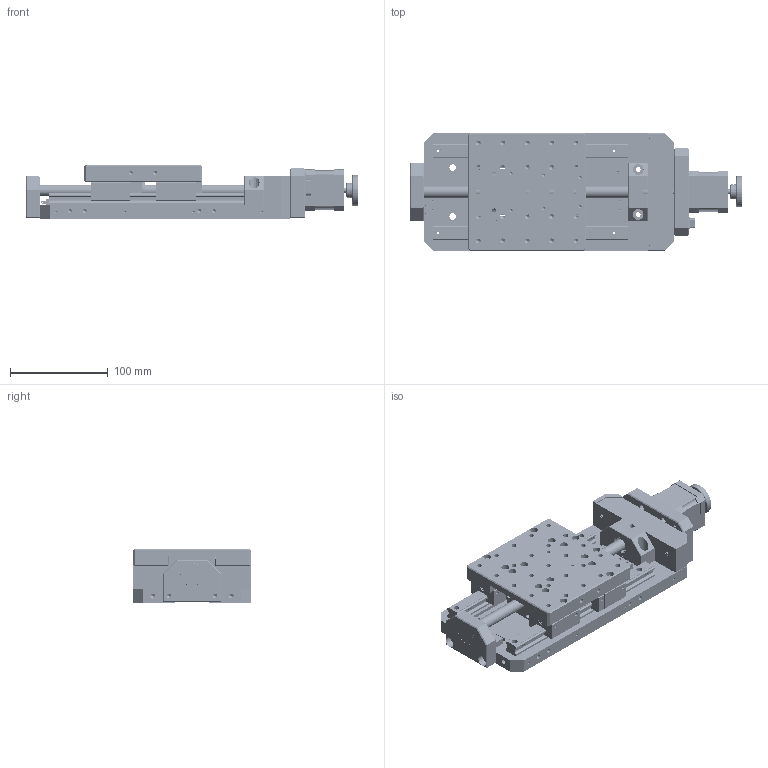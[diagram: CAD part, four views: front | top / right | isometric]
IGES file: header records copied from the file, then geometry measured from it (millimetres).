
Start section: SolidWorks IGES file using analytic representation for surfaces
Global section: file name: C:\Users\dubin\Desktop\9.18\PT-GD140G(50)\PT-GD140G(50).IGS; native system: SolidWorks 2017; preprocessor: SolidWorks 2017; author: PDV; date: 220918.102150; units: millimetre
Bounding box: 339 x 120 x 55 mm (x, y, z)
Surface area: 303822.4 mm2 (no closed solid volume)
Topology: 0 solids, 0 shells, 2233 faces, 32130 edges, 31849 vertices
Faces by surface type: bspline 1154, revolution 1079
